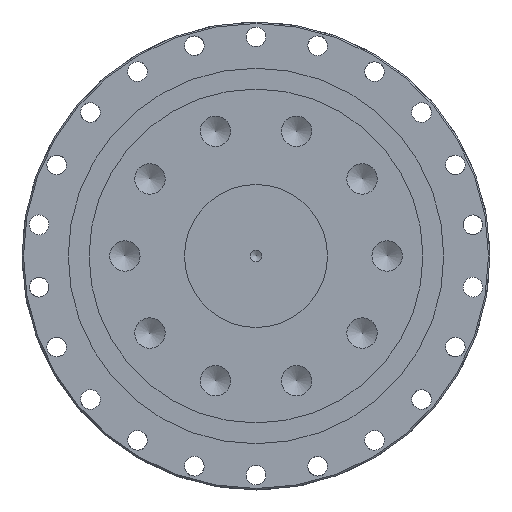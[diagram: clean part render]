
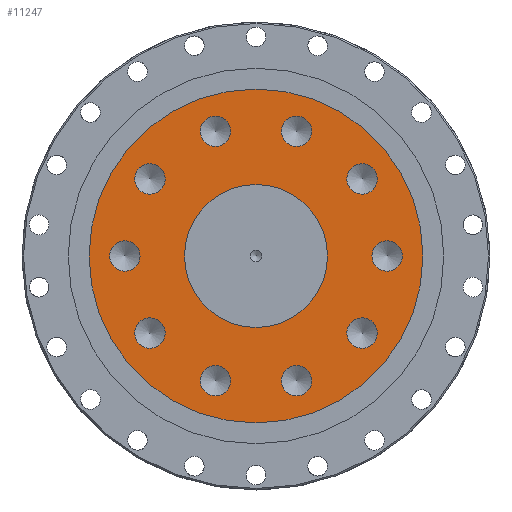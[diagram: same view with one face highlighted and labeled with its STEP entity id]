
A CAD part, left-side view. The second image highlights one B-rep face of the part: STEP entity #11247.
In plain terms, the highlighted planar face has unit normal (-1, 0, 0).
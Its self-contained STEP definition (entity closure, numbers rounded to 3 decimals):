
#140 = CARTESIAN_POINT ( 'NONE',  ( 0., 38.594, 221.81 ) ) ;
#342 = AXIS2_PLACEMENT_3D ( 'NONE', #5367, #10886, #4443 ) ;
#540 = EDGE_LOOP ( 'NONE', ( #916 ) ) ;
#548 = VERTEX_POINT ( 'NONE', #5892 ) ;
#586 = CARTESIAN_POINT ( 'NONE',  ( 0., 32.599, 170.085 ) ) ;
#596 = CARTESIAN_POINT ( 'NONE',  ( 0., 44., 200.074 ) ) ;
#667 = EDGE_CURVE ( 'NONE', #3306, #3306, #9832, .T. ) ;
#716 = CARTESIAN_POINT ( 'NONE',  ( 0., 13.597, 158.227 ) ) ;
#750 = DIRECTION ( 'NONE',  ( 0., 0., -1. ) ) ;
#916 = ORIENTED_EDGE ( 'NONE', *, *, #8422, .F. ) ;
#959 = VERTEX_POINT ( 'NONE', #1259 ) ;
#1021 = CARTESIAN_POINT ( 'NONE',  ( 0., -13.597, 241.92 ) ) ;
#1049 = EDGE_CURVE ( 'NONE', #9817, #9817, #2017, .T. ) ;
#1238 = CARTESIAN_POINT ( 'NONE',  ( 0., 0., 200.074 ) ) ;
#1259 = CARTESIAN_POINT ( 'NONE',  ( 0., 0., 176.074 ) ) ;
#1262 = CARTESIAN_POINT ( 'NONE',  ( 0., -35.597, 225.936 ) ) ;
#1368 = AXIS2_PLACEMENT_3D ( 'NONE', #1262, #7690, #2175 ) ;
#1371 = FACE_BOUND ( 'NONE', #2056, .T. ) ;
#1507 = DIRECTION ( 'NONE',  ( 0., 0., -1. ) ) ;
#1614 = ORIENTED_EDGE ( 'NONE', *, *, #11205, .F. ) ;
#1618 = DIRECTION ( 'NONE',  ( 0., -0.951, -0.309 ) ) ;
#1641 = FACE_BOUND ( 'NONE', #6466, .T. ) ;
#1936 = CARTESIAN_POINT ( 'NONE',  ( 0., -8.746, 243.496 ) ) ;
#1938 = DIRECTION ( 'NONE',  ( 0., 0.951, 0.309 ) ) ;
#1979 = CARTESIAN_POINT ( 'NONE',  ( 0., 18.447, 240.344 ) ) ;
#2017 = CIRCLE ( 'NONE', #9380, 5.1 ) ;
#2019 = CARTESIAN_POINT ( 'NONE',  ( 0., 8.746, 156.651 ) ) ;
#2051 = DIRECTION ( 'NONE',  ( -1., 0., 0. ) ) ;
#2056 = EDGE_LOOP ( 'NONE', ( #9903 ) ) ;
#2155 = DIRECTION ( 'NONE',  ( 0., 0., -1. ) ) ;
#2175 = DIRECTION ( 'NONE',  ( 0., 0.588, 0.809 ) ) ;
#2291 = DIRECTION ( 'NONE',  ( 0., -0.588, -0.809 ) ) ;
#2602 = AXIS2_PLACEMENT_3D ( 'NONE', #7552, #2051, #8517 ) ;
#2614 = EDGE_LOOP ( 'NONE', ( #10841 ) ) ;
#2760 = AXIS2_PLACEMENT_3D ( 'NONE', #596, #7015, #1507 ) ;
#2929 = EDGE_LOOP ( 'NONE', ( #11444 ) ) ;
#2987 = AXIS2_PLACEMENT_3D ( 'NONE', #9852, #4311, #10762 ) ;
#3057 = DIRECTION ( 'NONE',  ( 1., 0., 0. ) ) ;
#3113 = AXIS2_PLACEMENT_3D ( 'NONE', #11786, #6257, #750 ) ;
#3301 = CIRCLE ( 'NONE', #11184, 5.1 ) ;
#3306 = VERTEX_POINT ( 'NONE', #6961 ) ;
#3444 = AXIS2_PLACEMENT_3D ( 'NONE', #1021, #7444, #1938 ) ;
#3515 = FACE_OUTER_BOUND ( 'NONE', #2614, .T. ) ;
#3571 = CARTESIAN_POINT ( 'NONE',  ( 0., 13.597, 241.92 ) ) ;
#3793 = CARTESIAN_POINT ( 'NONE',  ( 0., -32.599, 230.062 ) ) ;
#3818 = FACE_BOUND ( 'NONE', #5233, .T. ) ;
#3849 = VERTEX_POINT ( 'NONE', #2019 ) ;
#3981 = ORIENTED_EDGE ( 'NONE', *, *, #9192, .F. ) ;
#4110 = DIRECTION ( 'NONE',  ( -1., 0., 0. ) ) ;
#4192 = EDGE_CURVE ( 'NONE', #9518, #9518, #5905, .T. ) ;
#4311 = DIRECTION ( 'NONE',  ( -1., 0., 0. ) ) ;
#4443 = DIRECTION ( 'NONE',  ( 0., 0., 1. ) ) ;
#4504 = DIRECTION ( 'NONE',  ( 0., 0.951, -0.309 ) ) ;
#4921 = EDGE_CURVE ( 'NONE', #10791, #10791, #6022, .T. ) ;
#5011 = CIRCLE ( 'NONE', #8001, 24. ) ;
#5125 = CIRCLE ( 'NONE', #1368, 5.1 ) ;
#5233 = EDGE_LOOP ( 'NONE', ( #8795 ) ) ;
#5367 = CARTESIAN_POINT ( 'NONE',  ( 0., -44., 200.074 ) ) ;
#5381 = ORIENTED_EDGE ( 'NONE', *, *, #10839, .F. ) ;
#5459 = CARTESIAN_POINT ( 'NONE',  ( 0., -38.594, 178.337 ) ) ;
#5609 = EDGE_LOOP ( 'NONE', ( #1614 ) ) ;
#5803 = CARTESIAN_POINT ( 'NONE',  ( 0., 0., 200.074 ) ) ;
#5892 = CARTESIAN_POINT ( 'NONE',  ( 0., -18.447, 159.803 ) ) ;
#5905 = CIRCLE ( 'NONE', #6502, 5.1 ) ;
#5941 = CARTESIAN_POINT ( 'NONE',  ( 0., 35.597, 174.211 ) ) ;
#5955 = EDGE_LOOP ( 'NONE', ( #11214 ) ) ;
#5979 = FACE_BOUND ( 'NONE', #10466, .T. ) ;
#6010 = EDGE_LOOP ( 'NONE', ( #8964 ) ) ;
#6022 = CIRCLE ( 'NONE', #3113, 56. ) ;
#6257 = DIRECTION ( 'NONE',  ( -1., 0., 0. ) ) ;
#6258 = FACE_BOUND ( 'NONE', #5955, .T. ) ;
#6432 = VERTEX_POINT ( 'NONE', #7653 ) ;
#6466 = EDGE_LOOP ( 'NONE', ( #11890 ) ) ;
#6502 = AXIS2_PLACEMENT_3D ( 'NONE', #9656, #4110, #10583 ) ;
#6554 = FACE_BOUND ( 'NONE', #5609, .T. ) ;
#6961 = CARTESIAN_POINT ( 'NONE',  ( 0., -44., 205.174 ) ) ;
#7015 = DIRECTION ( 'NONE',  ( -1., 0., 0. ) ) ;
#7123 = DIRECTION ( 'NONE',  ( -1., 0., 0. ) ) ;
#7444 = DIRECTION ( 'NONE',  ( -1., 0., 0. ) ) ;
#7552 = CARTESIAN_POINT ( 'NONE',  ( 0., -13.597, 158.227 ) ) ;
#7653 = CARTESIAN_POINT ( 'NONE',  ( 0., 44., 194.974 ) ) ;
#7672 = DIRECTION ( 'NONE',  ( -1., 0., 0. ) ) ;
#7690 = DIRECTION ( 'NONE',  ( -1., 0., 0. ) ) ;
#7739 = VERTEX_POINT ( 'NONE', #1936 ) ;
#8001 = AXIS2_PLACEMENT_3D ( 'NONE', #1238, #7672, #2155 ) ;
#8245 = EDGE_CURVE ( 'NONE', #7739, #7739, #9611, .T. ) ;
#8276 = CARTESIAN_POINT ( 'NONE',  ( 0., 0., 144.074 ) ) ;
#8422 = EDGE_CURVE ( 'NONE', #9921, #9921, #5125, .T. ) ;
#8447 = FACE_BOUND ( 'NONE', #6010, .T. ) ;
#8517 = DIRECTION ( 'NONE',  ( 0., -0.951, 0.309 ) ) ;
#8566 = EDGE_CURVE ( 'NONE', #9644, #9644, #10741, .T. ) ;
#8595 = PLANE ( 'NONE',  #9429 ) ;
#8725 = EDGE_CURVE ( 'NONE', #11776, #11776, #10317, .T. ) ;
#8736 = FACE_BOUND ( 'NONE', #540, .T. ) ;
#8795 = ORIENTED_EDGE ( 'NONE', *, *, #8725, .F. ) ;
#8964 = ORIENTED_EDGE ( 'NONE', *, *, #10408, .F. ) ;
#9016 = FACE_BOUND ( 'NONE', #10411, .T. ) ;
#9114 = DIRECTION ( 'NONE',  ( -1., 0., 0. ) ) ;
#9192 = EDGE_CURVE ( 'NONE', #3849, #3849, #3301, .T. ) ;
#9380 = AXIS2_PLACEMENT_3D ( 'NONE', #5941, #9114, #2291 ) ;
#9429 = AXIS2_PLACEMENT_3D ( 'NONE', #5803, #3057, #9532 ) ;
#9518 = VERTEX_POINT ( 'NONE', #5459 ) ;
#9532 = DIRECTION ( 'NONE',  ( 0., 0., 1. ) ) ;
#9611 = CIRCLE ( 'NONE', #3444, 5.1 ) ;
#9616 = CIRCLE ( 'NONE', #2602, 5.1 ) ;
#9644 = VERTEX_POINT ( 'NONE', #140 ) ;
#9656 = CARTESIAN_POINT ( 'NONE',  ( 0., -35.597, 174.211 ) ) ;
#9817 = VERTEX_POINT ( 'NONE', #586 ) ;
#9832 = CIRCLE ( 'NONE', #342, 5.1 ) ;
#9852 = CARTESIAN_POINT ( 'NONE',  ( 0., 35.597, 225.936 ) ) ;
#9903 = ORIENTED_EDGE ( 'NONE', *, *, #8566, .F. ) ;
#9921 = VERTEX_POINT ( 'NONE', #3793 ) ;
#10051 = DIRECTION ( 'NONE',  ( -1., 0., 0. ) ) ;
#10317 = CIRCLE ( 'NONE', #11011, 5.1 ) ;
#10408 = EDGE_CURVE ( 'NONE', #6432, #6432, #11501, .T. ) ;
#10411 = EDGE_LOOP ( 'NONE', ( #3981 ) ) ;
#10466 = EDGE_LOOP ( 'NONE', ( #5381 ) ) ;
#10583 = DIRECTION ( 'NONE',  ( 0., -0.588, 0.809 ) ) ;
#10741 = CIRCLE ( 'NONE', #2987, 5.1 ) ;
#10762 = DIRECTION ( 'NONE',  ( 0., 0.588, -0.809 ) ) ;
#10791 = VERTEX_POINT ( 'NONE', #8276 ) ;
#10839 = EDGE_CURVE ( 'NONE', #959, #959, #5011, .T. ) ;
#10841 = ORIENTED_EDGE ( 'NONE', *, *, #4921, .T. ) ;
#10881 = FACE_BOUND ( 'NONE', #2929, .T. ) ;
#10886 = DIRECTION ( 'NONE',  ( -1., 0., 0. ) ) ;
#11011 = AXIS2_PLACEMENT_3D ( 'NONE', #3571, #10051, #4504 ) ;
#11181 = FACE_BOUND ( 'NONE', #11738, .T. ) ;
#11184 = AXIS2_PLACEMENT_3D ( 'NONE', #716, #7123, #1618 ) ;
#11204 = ORIENTED_EDGE ( 'NONE', *, *, #667, .F. ) ;
#11205 = EDGE_CURVE ( 'NONE', #548, #548, #9616, .T. ) ;
#11214 = ORIENTED_EDGE ( 'NONE', *, *, #8245, .F. ) ;
#11247 = ADVANCED_FACE ( 'NONE', ( #9016, #6554, #1641, #11181, #8736, #6258, #3818, #1371, #10881, #8447, #5979, #3515 ), #8595, .F. ) ;
#11444 = ORIENTED_EDGE ( 'NONE', *, *, #1049, .F. ) ;
#11501 = CIRCLE ( 'NONE', #2760, 5.1 ) ;
#11738 = EDGE_LOOP ( 'NONE', ( #11204 ) ) ;
#11776 = VERTEX_POINT ( 'NONE', #1979 ) ;
#11786 = CARTESIAN_POINT ( 'NONE',  ( 0., 0., 200.074 ) ) ;
#11890 = ORIENTED_EDGE ( 'NONE', *, *, #4192, .F. ) ;
